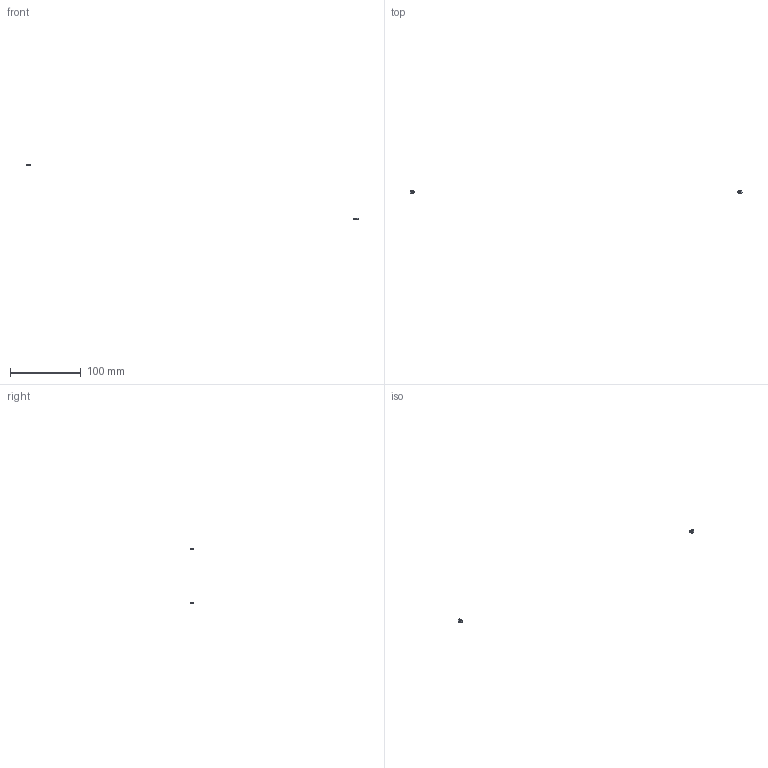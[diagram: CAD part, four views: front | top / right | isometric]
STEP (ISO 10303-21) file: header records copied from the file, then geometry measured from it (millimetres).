
FILE_DESCRIPTION(/* description */ (''),/* implementation_level */ '2;1');
FILE_NAME(/* name */ 'X-EDBB~1',/* time_stamp */ '2014-02-14T19:46:18+01:00',/* author */ (''),/* organization */ (''),/* preprocessor_version */ 'ST-DEVELOPER v14',/* originating_system */ '',/* authorisation */ '');
FILE_SCHEMA (('AUTOMOTIVE_DESIGN'));
Length unit declared in the file: millimetre
Products named in the file (2): Document; nut DIN934-like, M3
Assembly tree (2 placements, depth 2):
  Document
    nut DIN934-like, M3  x2
Bounding box: 468.35 x 5.5 x 78.4 mm (x, y, z)
Volume: 101.3 mm3; surface area: 207.3 mm2
Topology: 2 solids, 2 shells, 44 faces, 96 edges, 56 vertices
Faces by surface type: bspline 28, plane 16
Entity records: 1392 total; most frequent: CARTESIAN_POINT 729, ORIENTED_EDGE 96, PCURVE 96, DEFINITIONAL_REPRESENTATION 96, B_SPLINE_CURVE_WITH_KNOTS 92, SURFACE_CURVE 48, EDGE_CURVE 48, VERTEX_POINT 28
